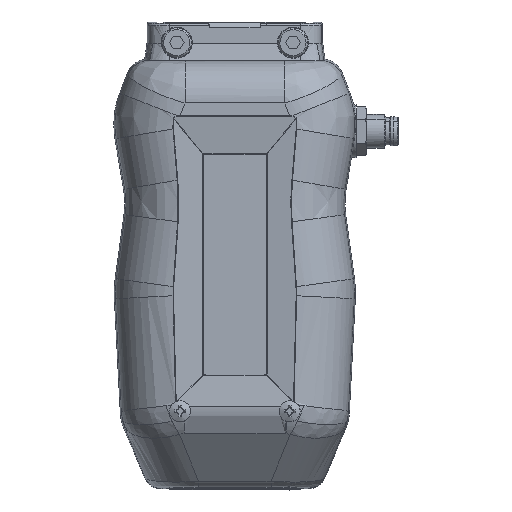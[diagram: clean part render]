
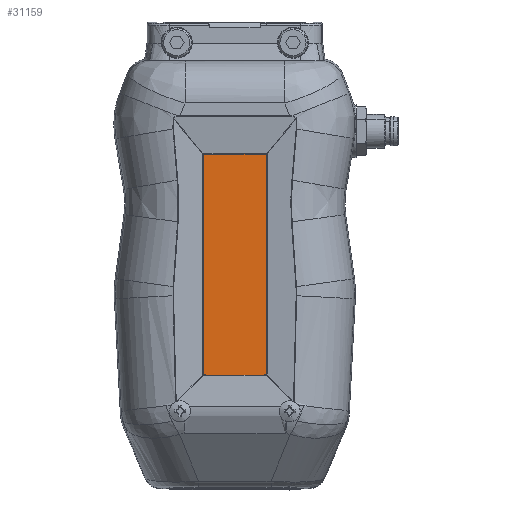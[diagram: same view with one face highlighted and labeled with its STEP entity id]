
A CAD part, front view. The second image highlights one B-rep face of the part: STEP entity #31159.
In plain terms, the highlighted free-form (B-spline) face has degree [1, 1] with [2, 2] control points.
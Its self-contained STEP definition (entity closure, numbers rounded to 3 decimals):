
#23864=CARTESIAN_POINT('',(-31.8,-3.7,62.5));
#23865=VERTEX_POINT('',#23864);
#23871=CARTESIAN_POINT('',(-31.3,-3.7,63.));
#23872=VERTEX_POINT('',#23871);
#23873=CARTESIAN_POINT('',(-31.3,-3.7,63.));
#23874=CARTESIAN_POINT('',(-31.507,-3.7,63.));
#23875=CARTESIAN_POINT('',(-31.654,-3.7,62.854));
#23876=CARTESIAN_POINT('',(-31.8,-3.7,62.707));
#23877=CARTESIAN_POINT('',(-31.8,-3.7,62.5));
#23885=(BOUNDED_CURVE()B_SPLINE_CURVE(2,(#23873,#23874,#23875,#23876,#23877),.UNSPECIFIED.,.F.,.U.)B_SPLINE_CURVE_WITH_KNOTS((3,2,3),(0.,0.5,1.),.UNSPECIFIED.)CURVE()GEOMETRIC_REPRESENTATION_ITEM()RATIONAL_B_SPLINE_CURVE((1.,0.924,1.,0.924,1.))REPRESENTATION_ITEM(''));
#23886=EDGE_CURVE('',#23872,#23865,#23885,.T.);
#23904=CARTESIAN_POINT('',(-31.8,-3.7,11.1));
#23905=VERTEX_POINT('',#23904);
#23911=CARTESIAN_POINT('',(-31.8,-3.7,62.5));
#23912=CARTESIAN_POINT('',(-31.8,-3.7,11.1));
#23913=QUASI_UNIFORM_CURVE('',1,(#23911,#23912),.UNSPECIFIED.,.F.,.U.);
#23914=EDGE_CURVE('',#23865,#23905,#23913,.T.);
#23953=CARTESIAN_POINT('',(-31.3,-3.7,10.6));
#23954=VERTEX_POINT('',#23953);
#23960=CARTESIAN_POINT('',(-31.8,-3.7,11.1));
#23961=CARTESIAN_POINT('',(-31.8,-3.7,10.893));
#23962=CARTESIAN_POINT('',(-31.654,-3.7,10.746));
#23963=CARTESIAN_POINT('',(-31.507,-3.7,10.6));
#23964=CARTESIAN_POINT('',(-31.3,-3.7,10.6));
#23972=(BOUNDED_CURVE()B_SPLINE_CURVE(2,(#23960,#23961,#23962,#23963,#23964),.UNSPECIFIED.,.F.,.U.)B_SPLINE_CURVE_WITH_KNOTS((3,2,3),(0.,0.5,1.),.UNSPECIFIED.)CURVE()GEOMETRIC_REPRESENTATION_ITEM()RATIONAL_B_SPLINE_CURVE((1.,0.924,1.,0.924,1.))REPRESENTATION_ITEM(''));
#23973=EDGE_CURVE('',#23905,#23954,#23972,.T.);
#23986=CARTESIAN_POINT('',(-17.3,-3.7,10.6));
#23987=VERTEX_POINT('',#23986);
#23993=CARTESIAN_POINT('',(-31.3,-3.7,10.6));
#23994=CARTESIAN_POINT('',(-17.3,-3.7,10.6));
#23995=QUASI_UNIFORM_CURVE('',1,(#23993,#23994),.UNSPECIFIED.,.F.,.U.);
#23996=EDGE_CURVE('',#23954,#23987,#23995,.T.);
#24358=CARTESIAN_POINT('',(-17.3,-3.7,63.));
#24359=VERTEX_POINT('',#24358);
#24360=CARTESIAN_POINT('',(-17.3,-3.7,63.));
#24361=CARTESIAN_POINT('',(-31.3,-3.7,63.));
#24362=QUASI_UNIFORM_CURVE('',1,(#24360,#24361),.UNSPECIFIED.,.F.,.U.);
#24363=EDGE_CURVE('',#24359,#23872,#24362,.T.);
#26543=CARTESIAN_POINT('',(-16.8,-3.7,62.5));
#26544=VERTEX_POINT('',#26543);
#26553=CARTESIAN_POINT('',(-16.8,-3.7,62.5));
#26554=CARTESIAN_POINT('',(-16.8,-3.7,62.707));
#26555=CARTESIAN_POINT('',(-16.946,-3.7,62.854));
#26556=CARTESIAN_POINT('',(-17.093,-3.7,63.));
#26557=CARTESIAN_POINT('',(-17.3,-3.7,63.));
#26565=(BOUNDED_CURVE()B_SPLINE_CURVE(2,(#26553,#26554,#26555,#26556,#26557),.UNSPECIFIED.,.F.,.U.)B_SPLINE_CURVE_WITH_KNOTS((3,2,3),(0.,0.5,1.),.UNSPECIFIED.)CURVE()GEOMETRIC_REPRESENTATION_ITEM()RATIONAL_B_SPLINE_CURVE((1.,0.924,1.,0.924,1.))REPRESENTATION_ITEM(''));
#26566=EDGE_CURVE('',#26544,#24359,#26565,.T.);
#28446=CARTESIAN_POINT('',(-16.8,-3.7,11.1));
#28447=VERTEX_POINT('',#28446);
#28453=CARTESIAN_POINT('',(-17.3,-3.7,10.6));
#28454=CARTESIAN_POINT('',(-17.093,-3.7,10.6));
#28455=CARTESIAN_POINT('',(-16.946,-3.7,10.746));
#28456=CARTESIAN_POINT('',(-16.8,-3.7,10.893));
#28457=CARTESIAN_POINT('',(-16.8,-3.7,11.1));
#28465=(BOUNDED_CURVE()B_SPLINE_CURVE(2,(#28453,#28454,#28455,#28456,#28457),.UNSPECIFIED.,.F.,.U.)B_SPLINE_CURVE_WITH_KNOTS((3,2,3),(0.,0.5,1.),.UNSPECIFIED.)CURVE()GEOMETRIC_REPRESENTATION_ITEM()RATIONAL_B_SPLINE_CURVE((1.,0.924,1.,0.924,1.))REPRESENTATION_ITEM(''));
#28466=EDGE_CURVE('',#23987,#28447,#28465,.T.);
#28555=CARTESIAN_POINT('',(-16.8,-3.7,62.5));
#28556=CARTESIAN_POINT('',(-16.8,-3.7,11.1));
#28557=QUASI_UNIFORM_CURVE('',1,(#28555,#28556),.UNSPECIFIED.,.F.,.U.);
#28558=EDGE_CURVE('',#26544,#28447,#28557,.T.);
#31144=CARTESIAN_POINT('',(-33.3,-3.7,5.36));
#31145=CARTESIAN_POINT('',(-33.3,-3.7,68.24));
#31146=CARTESIAN_POINT('',(-15.3,-3.7,5.36));
#31147=CARTESIAN_POINT('',(-15.3,-3.7,68.24));
#31148=B_SPLINE_SURFACE_WITH_KNOTS('',1,1,((#31144,#31146),(#31145,#31147)),.UNSPECIFIED.,.F.,.F.,.U.,(2,2),(2,2),(0.,62.88),(0.,18.),.UNSPECIFIED.);
#31149=ORIENTED_EDGE('',*,*,#24363,.T.);
#31150=ORIENTED_EDGE('',*,*,#23886,.T.);
#31151=ORIENTED_EDGE('',*,*,#23914,.T.);
#31152=ORIENTED_EDGE('',*,*,#23973,.T.);
#31153=ORIENTED_EDGE('',*,*,#23996,.T.);
#31154=ORIENTED_EDGE('',*,*,#28466,.T.);
#31155=ORIENTED_EDGE('',*,*,#28558,.F.);
#31156=ORIENTED_EDGE('',*,*,#26566,.T.);
#31157=EDGE_LOOP('',(#31149,#31150,#31151,#31152,#31153,#31154,#31155,#31156));
#31158=FACE_OUTER_BOUND('',#31157,.T.);
#31159=ADVANCED_FACE('',(#31158),#31148,.F.);
